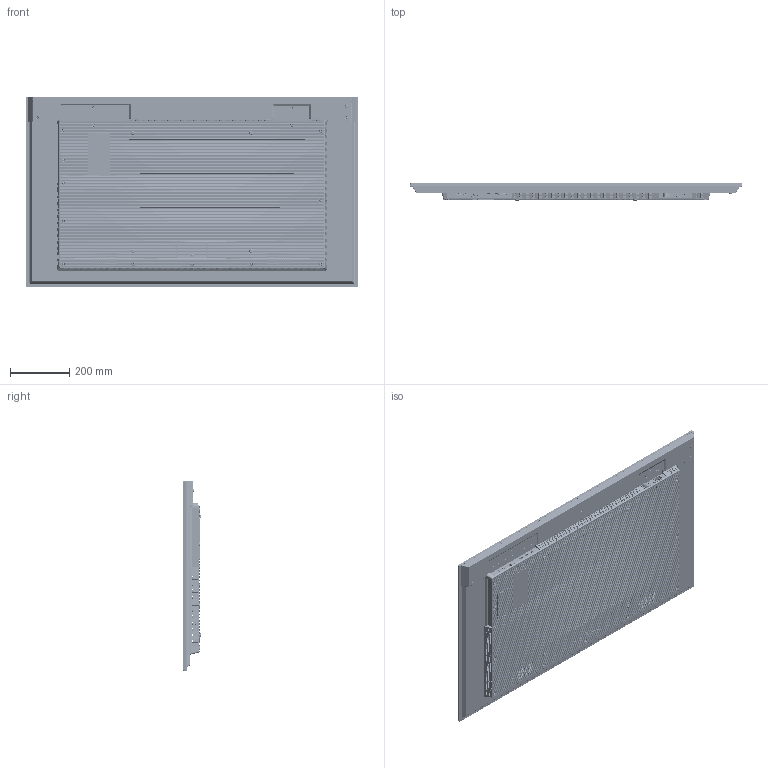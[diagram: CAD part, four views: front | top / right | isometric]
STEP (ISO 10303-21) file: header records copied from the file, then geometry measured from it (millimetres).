
FILE_DESCRIPTION(/* description */ (''),/* implementation_level */ '2;1');
FILE_NAME(/* name */ '00_50U_total_asm_65XL-1207.stp',/* time_stamp */ '2023-12-07T11:07:24+08:00',/* author */ (''),/* organization */ (''),/* preprocessor_version */ 'ST-DEVELOPER v14',/* originating_system */ 'SIEMENS PLM Software NX 8.0',/* authorisation */ '');
FILE_SCHEMA (('AUTOMOTIVE_DESIGN { 1 0 10303 214 3 1 1 1 }'));
Products named in the file (1): 4073307C27CF86p5
Bounding box: 1122.69 x 58.67 x 643.6 mm (x, y, z)
Volume: 14710693.6 mm3; surface area: 3038560.9 mm2
Topology: 10 solids, 30 shells, 29663 faces, 87859 edges, 56329 vertices
Faces by surface type: plane 22198, cylinder 4468, torus 1024, cone 973, bspline 765, extrusion 205, sphere 30
Full cylindrical faces by diameter (mm): 3.8 x1, 4.3 x1, 5.3 x10, 5.4 x4, 8 x4, 11.5 x2, 13.5 x5, 14.3 x8
Entity records: 1214361 total; most frequent: CARTESIAN_POINT 340648, ORIENTED_EDGE 175094, DIRECTION 145602, EDGE_CURVE 87547, VECTOR 67806, LINE 67601, VERTEX_POINT 56216, AXIS2_PLACEMENT_3D 38898
